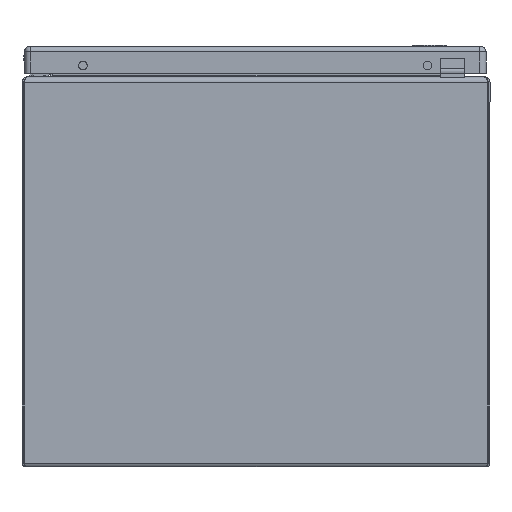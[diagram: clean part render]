
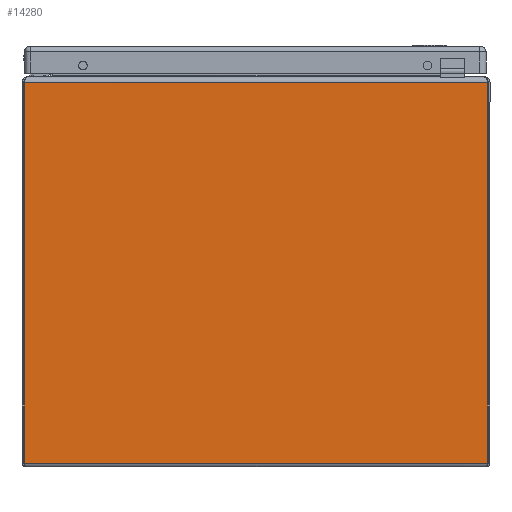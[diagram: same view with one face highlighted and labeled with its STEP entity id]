
A CAD part, front view. The second image highlights one B-rep face of the part: STEP entity #14280.
In plain terms, the highlighted planar face has unit normal (0, -1, 0).
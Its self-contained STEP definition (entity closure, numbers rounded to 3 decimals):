
#4287 = DIRECTION ( 'NONE',  ( 0., 0., -1. ) ) ;
#4289 = DIRECTION ( 'NONE',  ( 0., -1., 0. ) ) ;
#4298 = PLANE ( 'NONE',  #21072 ) ;
#4310 = CARTESIAN_POINT ( 'NONE',  ( -86., -8., 9.859 ) ) ;
#5833 = ORIENTED_EDGE ( 'NONE', *, *, #23338, .T. ) ;
#5838 = ORIENTED_EDGE ( 'NONE', *, *, #23281, .T. ) ;
#5841 = ORIENTED_EDGE ( 'NONE', *, *, #23334, .F. ) ;
#5845 = ORIENTED_EDGE ( 'NONE', *, *, #23324, .T. ) ;
#6038 = CARTESIAN_POINT ( 'NONE',  ( -5.947, -8., 0.097 ) ) ;
#6296 = CARTESIAN_POINT ( 'NONE',  ( -5.947, -8., 9.859 ) ) ;
#9316 = VECTOR ( 'NONE', #18159, 39.37 ) ;
#9320 = LINE ( 'NONE', #18160, #9316 ) ;
#9375 = LINE ( 'NONE', #18026, #9385 ) ;
#9385 = VECTOR ( 'NONE', #18024, 39.37 ) ;
#9402 = LINE ( 'NONE', #18001, #9403 ) ;
#9403 = VECTOR ( 'NONE', #18000, 39.37 ) ;
#9410 = LINE ( 'NONE', #17991, #9411 ) ;
#9411 = VECTOR ( 'NONE', #17990, 39.37 ) ;
#10870 = VERTEX_POINT ( 'NONE', #6296 ) ;
#10920 = VERTEX_POINT ( 'NONE', #6038 ) ;
#14280 = ADVANCED_FACE ( 'NONE', ( #25128 ), #4298, .T. ) ;
#17990 = DIRECTION ( 'NONE',  ( 1., 0., 0. ) ) ;
#17991 = CARTESIAN_POINT ( 'NONE',  ( -86., -8., 0.097 ) ) ;
#18000 = DIRECTION ( 'NONE',  ( 1., 0., 0. ) ) ;
#18001 = CARTESIAN_POINT ( 'NONE',  ( -86., -8., 9.859 ) ) ;
#18024 = DIRECTION ( 'NONE',  ( 0., 0., 1. ) ) ;
#18026 = CARTESIAN_POINT ( 'NONE',  ( 5.947, -8., 9.859 ) ) ;
#18159 = DIRECTION ( 'NONE',  ( 0., 0., -1. ) ) ;
#18160 = CARTESIAN_POINT ( 'NONE',  ( -5.947, -8., 9.859 ) ) ;
#20065 = EDGE_LOOP ( 'NONE', ( #5845, #5841, #5838, #5833 ) ) ;
#21072 = AXIS2_PLACEMENT_3D ( 'NONE', #4310, #4289, #4287 ) ;
#23281 = EDGE_CURVE ( 'NONE', #10870, #10920, #9320, .T. ) ;
#23324 = EDGE_CURVE ( 'NONE', #45912, #45948, #9375, .T. ) ;
#23334 = EDGE_CURVE ( 'NONE', #10870, #45948, #9402, .T. ) ;
#23338 = EDGE_CURVE ( 'NONE', #10920, #45912, #9410, .T. ) ;
#25128 = FACE_OUTER_BOUND ( 'NONE', #20065, .T. ) ;
#34486 = CARTESIAN_POINT ( 'NONE',  ( 5.947, -8., 0.097 ) ) ;
#34507 = CARTESIAN_POINT ( 'NONE',  ( 5.947, -8., 9.859 ) ) ;
#45912 = VERTEX_POINT ( 'NONE', #34486 ) ;
#45948 = VERTEX_POINT ( 'NONE', #34507 ) ;
